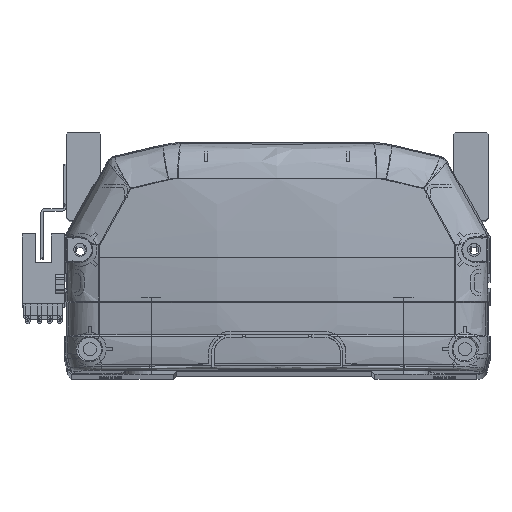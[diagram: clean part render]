
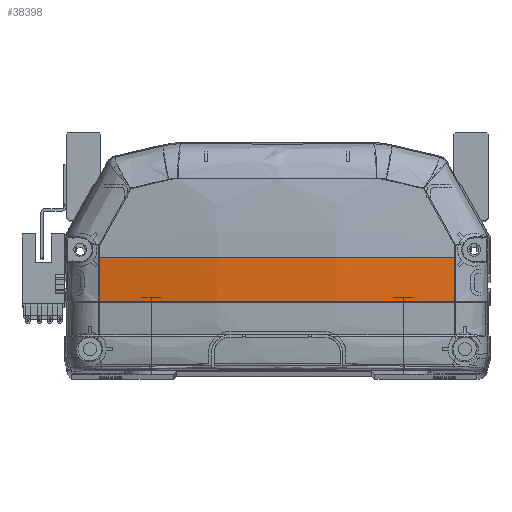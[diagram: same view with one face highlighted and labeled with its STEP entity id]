
A CAD part, top view. The second image highlights one B-rep face of the part: STEP entity #38398.
In plain terms, the highlighted free-form (B-spline) face has degree [3, 3] with [4, 4] control points.
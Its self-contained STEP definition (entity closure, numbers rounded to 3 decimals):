
#935 = CARTESIAN_POINT ( 'NONE',  ( 47.432, 22.225, -6.377 ) ) ;
#1564 = B_SPLINE_CURVE_WITH_KNOTS ( 'NONE', 3,
 ( #2877, #2509, #55853, #42693 ),
 .UNSPECIFIED., .F., .F.,
 ( 4, 4 ),
 ( 0., 1. ),
 .UNSPECIFIED. ) ;
#1898 = CIRCLE ( 'NONE', #16127, 6395.966 ) ;
#2325 = VERTEX_POINT ( 'NONE', #49685 ) ;
#2509 = CARTESIAN_POINT ( 'NONE',  ( -56.647, 31.405, -5.158 ) ) ;
#2877 = CARTESIAN_POINT ( 'NONE',  ( -56.647, 36., -5.158 ) ) ;
#3126 = CARTESIAN_POINT ( 'NONE',  ( 57.335, 26.762, -4.928 ) ) ;
#3241 = CARTESIAN_POINT ( 'NONE',  ( 2.357, 22.225, -9.562 ) ) ;
#3519 = CARTESIAN_POINT ( 'NONE',  ( -57.335, 31.38, -5.042 ) ) ;
#3910 = CARTESIAN_POINT ( 'NONE',  ( -19.295, 36., -11.535 ) ) ;
#5169 = CARTESIAN_POINT ( 'NONE',  ( -56.647, 36., -5.158 ) ) ;
#5658 = CARTESIAN_POINT ( 'NONE',  ( 56.647, 36., -5.158 ) ) ;
#6113 = CARTESIAN_POINT ( 'NONE',  ( 56.647, 35.969, -5.158 ) ) ;
#6774 = ORIENTED_EDGE ( 'NONE', *, *, #13559, .F. ) ;
#6979 = CARTESIAN_POINT ( 'NONE',  ( 11.954, 22.225, -9.367 ) ) ;
#7083 = B_SPLINE_CURVE_WITH_KNOTS ( 'NONE', 3,
 ( #36982, #935, #29710, #38949, #7182, #6979, #16187, #34614, #3241, #15998, #12277, #11697, #25420 ),
 .UNSPECIFIED., .F., .F.,
 ( 4, 2, 2, 1, 2, 2, 4 ),
 ( 0., 0.25, 0.375, 0.438, 0.469, 0.5, 1. ),
 .UNSPECIFIED. ) ;
#7182 = CARTESIAN_POINT ( 'NONE',  ( 19.121, 22.225, -9.064 ) ) ;
#7626 = CARTESIAN_POINT ( 'NONE',  ( 57.335, 36., -5.042 ) ) ;
#7817 = CARTESIAN_POINT ( 'NONE',  ( -19.295, 26.549, -11.419 ) ) ;
#7828 =( BOUNDED_SURFACE ( )  B_SPLINE_SURFACE ( 3, 3, ( 
 ( #56875, #3126, #39208, #7626 ),
 ( #12156, #43527, #12343, #44117 ),
 ( #25498, #7817, #16851, #3910 ),
 ( #21979, #12527, #3519, #35064 ) ),
 .UNSPECIFIED., .F., .F., .F. ) 
 B_SPLINE_SURFACE_WITH_KNOTS ( ( 4, 4 ),
 ( 4, 4 ),
 ( 0., 1. ),
 ( 0., 1. ),
 .UNSPECIFIED. ) 
 GEOMETRIC_REPRESENTATION_ITEM ( )  RATIONAL_B_SPLINE_SURFACE ( (
 ( 1., 1., 1., 1.),
 ( 0.99, 0.99, 0.99, 0.99),
 ( 0.99, 0.99, 0.99, 0.99),
 ( 1., 1., 1., 1.) ) ) 
 REPRESENTATION_ITEM ( '' )  SURFACE ( )  );
#10266 = DIRECTION ( 'NONE',  ( -1., 0., 0. ) ) ;
#11065 = EDGE_CURVE ( 'NONE', #45852, #24247, #1898, .T. ) ;
#11697 = CARTESIAN_POINT ( 'NONE',  ( -38.235, 22.225, -7.93 ) ) ;
#12156 = CARTESIAN_POINT ( 'NONE',  ( 19.295, 21.828, -11.186 ) ) ;
#12277 = CARTESIAN_POINT ( 'NONE',  ( -19.28, 22.225, -9.565 ) ) ;
#12343 = CARTESIAN_POINT ( 'NONE',  ( 19.295, 31.274, -11.535 ) ) ;
#12527 = CARTESIAN_POINT ( 'NONE',  ( -57.335, 26.762, -4.928 ) ) ;
#13559 = EDGE_CURVE ( 'NONE', #2325, #45852, #37310, .T. ) ;
#15043 = ORIENTED_EDGE ( 'NONE', *, *, #27959, .T. ) ;
#15998 = CARTESIAN_POINT ( 'NONE',  ( 1.152, 22.225, -9.568 ) ) ;
#16127 = AXIS2_PLACEMENT_3D ( 'NONE', #41227, #51048, #10266 ) ;
#16187 = CARTESIAN_POINT ( 'NONE',  ( 8.363, 22.225, -9.48 ) ) ;
#16851 = CARTESIAN_POINT ( 'NONE',  ( -19.295, 31.274, -11.535 ) ) ;
#18495 = ORIENTED_EDGE ( 'NONE', *, *, #11065, .F. ) ;
#19468 = CARTESIAN_POINT ( 'NONE',  ( 56.652, 26.806, -5.044 ) ) ;
#19630 = ORIENTED_EDGE ( 'NONE', *, *, #37848, .F. ) ;
#21979 = CARTESIAN_POINT ( 'NONE',  ( -57.335, 22.148, -4.7 ) ) ;
#21996 = EDGE_CURVE ( 'NONE', #24247, #40016, #46099, .T. ) ;
#22140 = DIRECTION ( 'NONE',  ( 0., 1., 0. ) ) ;
#24247 = VERTEX_POINT ( 'NONE', #5658 ) ;
#25420 = CARTESIAN_POINT ( 'NONE',  ( -56.661, 22.225, -4.818 ) ) ;
#25498 = CARTESIAN_POINT ( 'NONE',  ( -19.295, 21.828, -11.186 ) ) ;
#27959 = EDGE_CURVE ( 'NONE', #2325, #52514, #7083, .T. ) ;
#29710 = CARTESIAN_POINT ( 'NONE',  ( 38.071, 22.225, -7.566 ) ) ;
#31711 = CARTESIAN_POINT ( 'NONE',  ( 0., 36., 330.833 ) ) ;
#32705 = CARTESIAN_POINT ( 'NONE',  ( -56.661, 22.225, -4.818 ) ) ;
#34614 = CARTESIAN_POINT ( 'NONE',  ( 4.761, 22.225, -9.537 ) ) ;
#35064 = CARTESIAN_POINT ( 'NONE',  ( -57.335, 36., -5.042 ) ) ;
#35822 = DIRECTION ( 'NONE',  ( 0., 0., -1. ) ) ;
#35964 = EDGE_LOOP ( 'NONE', ( #39026, #18495, #6774, #15043, #19630 ) ) ;
#36554 = CARTESIAN_POINT ( 'NONE',  ( 56.647, 35.969, -5.158 ) ) ;
#36982 = CARTESIAN_POINT ( 'NONE',  ( 56.661, 22.225, -4.818 ) ) ;
#37310 = B_SPLINE_CURVE_WITH_KNOTS ( 'NONE', 3,
 ( #55357, #19468, #42002, #6113 ),
 .UNSPECIFIED., .F., .F.,
 ( 4, 4 ),
 ( 0., 1. ),
 .UNSPECIFIED. ) ;
#37848 = EDGE_CURVE ( 'NONE', #40016, #52514, #1564, .T. ) ;
#38398 = ADVANCED_FACE ( 'NONE', ( #38936 ), #7828, .T. ) ;
#38936 = FACE_OUTER_BOUND ( 'NONE', #35964, .T. ) ;
#38949 = CARTESIAN_POINT ( 'NONE',  ( 23.877, 22.225, -8.763 ) ) ;
#39026 = ORIENTED_EDGE ( 'NONE', *, *, #21996, .F. ) ;
#39208 = CARTESIAN_POINT ( 'NONE',  ( 57.335, 31.38, -5.042 ) ) ;
#40016 = VERTEX_POINT ( 'NONE', #5169 ) ;
#41227 = CARTESIAN_POINT ( 'NONE',  ( 6452.613, 35.969, -5.158 ) ) ;
#42002 = CARTESIAN_POINT ( 'NONE',  ( 56.647, 31.387, -5.158 ) ) ;
#42693 = CARTESIAN_POINT ( 'NONE',  ( -56.661, 22.225, -4.818 ) ) ;
#43527 = CARTESIAN_POINT ( 'NONE',  ( 19.295, 26.549, -11.419 ) ) ;
#44117 = CARTESIAN_POINT ( 'NONE',  ( 19.295, 36., -11.535 ) ) ;
#45852 = VERTEX_POINT ( 'NONE', #36554 ) ;
#46099 = CIRCLE ( 'NONE', #53338, 340.733 ) ;
#49685 = CARTESIAN_POINT ( 'NONE',  ( 56.661, 22.225, -4.818 ) ) ;
#51048 = DIRECTION ( 'NONE',  ( 0., 0., -1. ) ) ;
#52514 = VERTEX_POINT ( 'NONE', #32705 ) ;
#53338 = AXIS2_PLACEMENT_3D ( 'NONE', #31711, #22140, #35822 ) ;
#55357 = CARTESIAN_POINT ( 'NONE',  ( 56.661, 22.225, -4.818 ) ) ;
#55853 = CARTESIAN_POINT ( 'NONE',  ( -56.652, 26.814, -5.045 ) ) ;
#56875 = CARTESIAN_POINT ( 'NONE',  ( 57.335, 22.148, -4.7 ) ) ;
